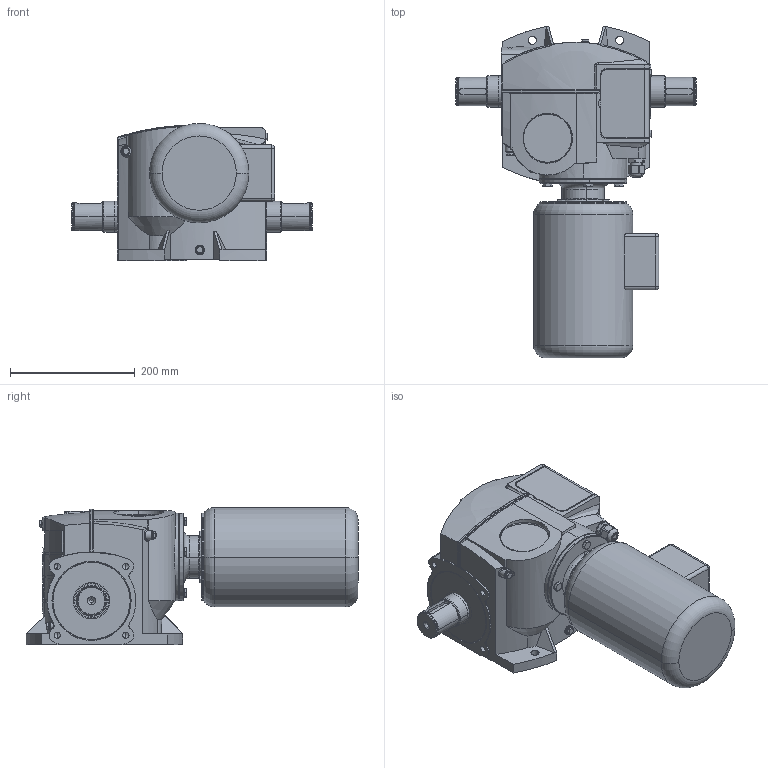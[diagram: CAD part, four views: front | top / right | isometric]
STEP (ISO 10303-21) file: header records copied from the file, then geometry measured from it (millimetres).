
FILE_DESCRIPTION (( 'STEP AP214' ), '1' );
FILE_NAME ('Elektroantrieb_EWA_10101408.STEP', '2023-03-09T14:30:29', ( '' ), ( '' ), 'SwSTEP 2.0', 'SolidWorks 2022', '' );
FILE_SCHEMA (( 'AUTOMOTIVE_DESIGN' ));
Length unit declared in the file: millimetre
Products named in the file (35): Sicherungselement_10032477; Dichtelement_10001203; Schraube_10057196; Elektroantrieb_EWA_10101408; Sicherungselement_10101397; Flansch_10000564_EWA16; Wälzlager_10049213; 010211785_EWA_16_3D__DE_84102.0360.PF01; Elektroteil_10007290; 010200791_EWA_14_3D__DE; 010200793_EWA_14_3D__DE; 010191515_Normteil_Kaufteil_3D-Modell_DE_10191515; Schraube_10057197; Elektroteil_10001640; 010200792_EWA_14_3D__DE; Verbindungselement_10101396; Welle_10000548; Wälzlager_10101395; Deckel_10028707_78x7; Schraube_10018291; Gehäuse_10146042_END 20; Scheibe_10002061; Dichtelement_10001564; Schneckenrad_10000544; Elektroantrieb_EWA_10101394_Ohne Inhalt; Schraube_10014320; Elektroteil_10001639; Dichtelement_10075545; Elektroteil_10028709; Dichtelement_10101407; 010201066_Normteil_Kaufteil_3D__DE_DIN 913 - M4 x 5-N; 010186907__3D-Modell_DE_90000.0001.0239_10186907_DIN EN 24017 - M6 x 20-N; Kennzeichnung_10102984; 010194921__3D-Modell_DE_90000.0001.5362_10194921; Deckel_10001319
Assembly tree (46 placements, depth 4):
  Elektroantrieb_EWA_10101408
    Elektroantrieb_EWA_10101394_Ohne Inhalt
      Gehäuse_10146042_END 20
      Elektroteil_10007290
        Elektroteil_10001639
        Elektroteil_10001640
      Elektroteil_10028709
      Deckel_10001319
      Schraube_10018291  x2
      Dichtelement_10075545
      010191515_Normteil_Kaufteil_3D-Modell_DE_10191515  x4
      Scheibe_10002061  x4
      Wälzlager_10101395
      010194921__3D-Modell_DE_90000.0001.5362_10194921
        Welle_10000548
      Dichtelement_10101407
      Deckel_10028707_78x7
      Flansch_10000564_EWA16
      Schraube_10057196  x3
      Sicherungselement_10032477
      Wälzlager_10049213
    Schraube_10014320
    Dichtelement_10001564
    010211785_EWA_16_3D__DE_84102.0360.PF01
    010200791_EWA_14_3D__DE
      010200792_EWA_14_3D__DE
      010200793_EWA_14_3D__DE
      Dichtelement_10001203
      010186907__3D-Modell_DE_90000.0001.0239_10186907_DIN EN 24017 - M6 x 20-N  x4
      010201066_Normteil_Kaufteil_3D__DE_DIN 913 - M4 x 5-N
    Schraube_10057197  x4
    Kennzeichnung_10102984
  Sicherungselement_10101397
  Verbindungselement_10101396
  Schneckenrad_10000544
Bounding box: 385 x 531.39 x 219.5 mm (x, y, z)
Volume: 8544699.5 mm3; surface area: 1105816.2 mm2
Topology: 45 solids, 53 shells, 2440 faces, 6067 edges, 3808 vertices
Faces by surface type: plane 996, cylinder 837, torus 215, cone 197, bspline 163, sphere 32
Entity records: 81017 total; most frequent: CARTESIAN_POINT 29155, ORIENTED_EDGE 10692, DIRECTION 10295, EDGE_CURVE 5346, AXIS2_PLACEMENT_3D 3964, VERTEX_POINT 3412, LINE 2367, VECTOR 2367
